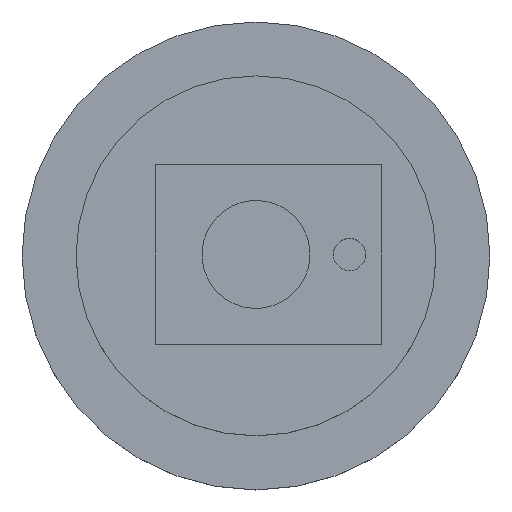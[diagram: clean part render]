
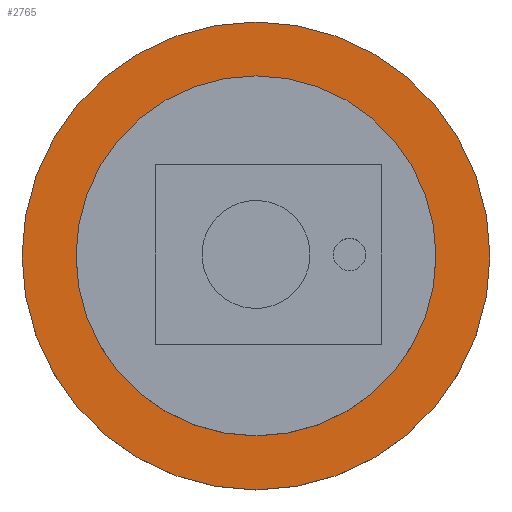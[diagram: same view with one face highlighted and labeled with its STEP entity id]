
A CAD part, top view. The second image highlights one B-rep face of the part: STEP entity #2765.
In plain terms, the highlighted planar face has unit normal (0, 0, 1).
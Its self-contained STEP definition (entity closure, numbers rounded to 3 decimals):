
#2698=CARTESIAN_POINT('Axis2P3D Location',(0.,0.,12.)) ;
#2702=CARTESIAN_POINT('Vertex',(-15.5,0.,12.)) ;
#2704=CARTESIAN_POINT('Vertex',(15.5,0.,12.)) ;
#2733=CARTESIAN_POINT('Axis2P3D Location',(0.,0.,12.)) ;
#2738=CARTESIAN_POINT('Axis2P3D Location',(0.,0.,12.)) ;
#2742=CARTESIAN_POINT('Vertex',(-65.,0.,12.)) ;
#2744=CARTESIAN_POINT('Vertex',(65.,0.,12.)) ;
#2747=CARTESIAN_POINT('Axis2P3D Location',(0.,0.,12.)) ;
#2756=CARTESIAN_POINT('Axis2P3D Location',(0.,0.,12.)) ;
#2699=DIRECTION('Axis2P3D Direction',(-0.,0.,-1.)) ;
#2734=DIRECTION('Axis2P3D Direction',(0.,0.,1.)) ;
#2735=DIRECTION('Axis2P3D XDirection',(1.,0.,-0.)) ;
#2739=DIRECTION('Axis2P3D Direction',(0.,0.,1.)) ;
#2748=DIRECTION('Axis2P3D Direction',(0.,0.,1.)) ;
#2757=DIRECTION('Axis2P3D Direction',(0.,0.,1.)) ;
#2700=AXIS2_PLACEMENT_3D('Circle Axis2P3D',#2698,#2699,$) ;
#2736=AXIS2_PLACEMENT_3D('Plane Axis2P3D',#2733,#2734,#2735) ;
#2740=AXIS2_PLACEMENT_3D('Circle Axis2P3D',#2738,#2739,$) ;
#2749=AXIS2_PLACEMENT_3D('Circle Axis2P3D',#2747,#2748,$) ;
#2758=AXIS2_PLACEMENT_3D('Circle Axis2P3D',#2756,#2757,$) ;
#2753=ORIENTED_EDGE('',*,*,#2746,.T.) ;
#2754=ORIENTED_EDGE('',*,*,#2751,.T.) ;
#2762=ORIENTED_EDGE('',*,*,#2706,.F.) ;
#2763=ORIENTED_EDGE('',*,*,#2760,.F.) ;
#2764=FACE_BOUND('',#2761,.T.) ;
#2765=ADVANCED_FACE('NONE',(#2755,#2764),#2737,.T.) ;
#2701=CIRCLE('generated circle',#2700,15.5) ;
#2741=CIRCLE('generated circle',#2740,65.) ;
#2750=CIRCLE('generated circle',#2749,65.) ;
#2759=CIRCLE('generated circle',#2758,15.5) ;
#2706=EDGE_CURVE('',#2703,#2705,#2701,.F.) ;
#2746=EDGE_CURVE('',#2743,#2745,#2741,.T.) ;
#2751=EDGE_CURVE('',#2745,#2743,#2750,.T.) ;
#2760=EDGE_CURVE('',#2705,#2703,#2759,.T.) ;
#2752=EDGE_LOOP('',(#2753,#2754)) ;
#2761=EDGE_LOOP('',(#2762,#2763)) ;
#2755=FACE_OUTER_BOUND('',#2752,.T.) ;
#2737=PLANE('Plane',#2736) ;
#2703=VERTEX_POINT('',#2702) ;
#2705=VERTEX_POINT('',#2704) ;
#2743=VERTEX_POINT('',#2742) ;
#2745=VERTEX_POINT('',#2744) ;
